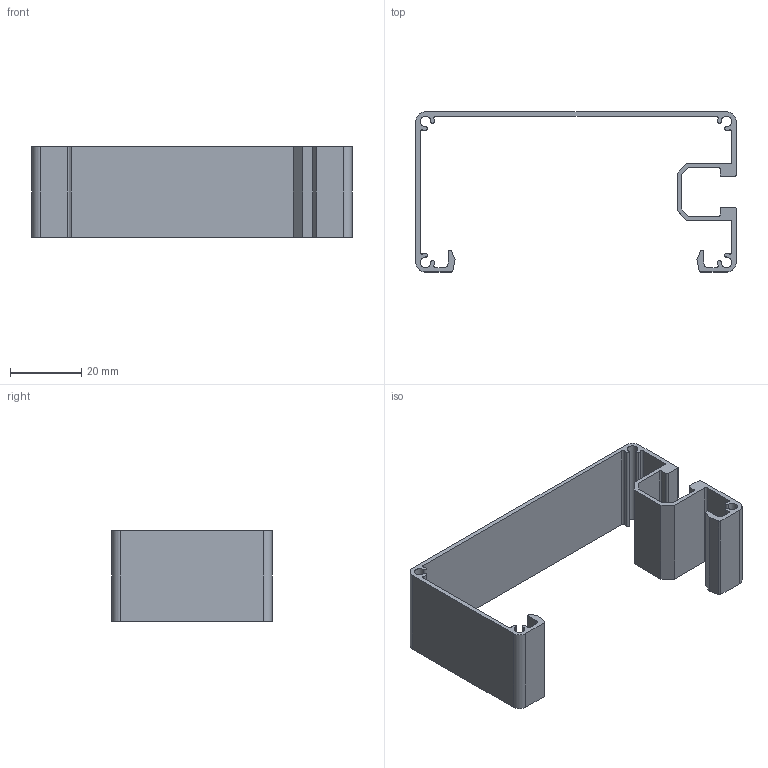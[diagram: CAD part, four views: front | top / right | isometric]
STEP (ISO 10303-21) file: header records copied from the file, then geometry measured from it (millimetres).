
FILE_DESCRIPTION((''),'2;1');
FILE_NAME('C:\Documents and Settings\Administrator\My Documents\Andys Backup Data\STEP LIBRARIES\MINITEC STEP LIBRARIES\ELECTRICAL INSTALLATION\20.1056 CONDUIT 90 AL.stp','2008-10-23T07:28:30',('Administrator'),(''),'Autodesk Inventor 2009','Autodesk Inventor 2009','');
FILE_SCHEMA(('AUTOMOTIVE_DESIGN { 1 0 10303 214 1 1 1 1 }'));
Length unit declared in the file: inch
Products named in the file (1): 20.1056 CONDUIT 90 AL
Bounding box: 90 x 45 x 25.4 mm (x, y, z)
Volume: 8179.6 mm3; surface area: 13160.1 mm2
Topology: 1 solids, 1 shells, 80 faces, 234 edges, 156 vertices
Faces by surface type: cylinder 44, plane 36
Entity records: 2714 total; most frequent: DIRECTION 484, CARTESIAN_POINT 471, ORIENTED_EDGE 468, EDGE_CURVE 234, AXIS2_PLACEMENT_3D 169, VERTEX_POINT 156, VECTOR 146, LINE 146
